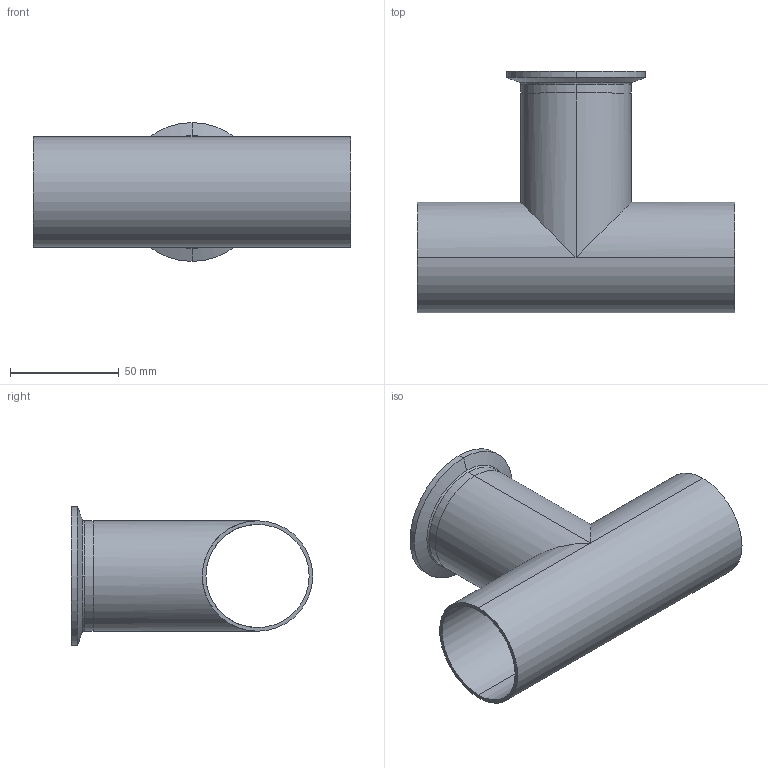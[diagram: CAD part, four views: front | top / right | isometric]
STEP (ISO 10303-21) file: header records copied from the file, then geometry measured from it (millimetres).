
FILE_DESCRIPTION (( 'STEP AP214' ), '1' );
FILE_NAME ('TE7WWC6L2.0-...STEP', '2016-05-23T05:37:08', ( 'eran' ), ( '' ), 'SwSTEP 2.0', 'SolidWorks 2016', '' );
FILE_SCHEMA (( 'AUTOMOTIVE_DESIGN' ));
Length unit declared in the file: millimetre
Products named in the file (1): TE7WWC6L2.0-..
Bounding box: 146 x 111.1 x 63.91 mm (x, y, z)
Volume: 55542.3 mm3; surface area: 65367.5 mm2
Topology: 2 solids, 2 shells, 38 faces, 92 edges, 58 vertices
Faces by surface type: cylinder 16, bspline 10, plane 6, cone 6
Entity records: 1846 total; most frequent: CARTESIAN_POINT 911, DIRECTION 198, ORIENTED_EDGE 184, EDGE_CURVE 92, AXIS2_PLACEMENT_3D 87, VERTEX_POINT 58, CIRCLE 58, EDGE_LOOP 44
